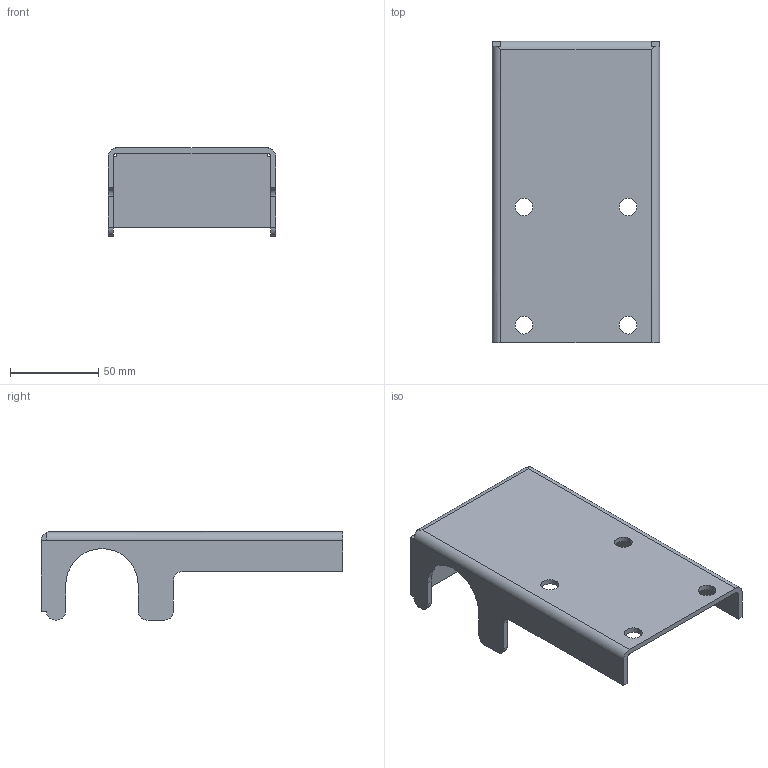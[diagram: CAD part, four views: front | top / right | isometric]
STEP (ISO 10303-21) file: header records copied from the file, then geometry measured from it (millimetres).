
FILE_DESCRIPTION( ( '' ), ' ' );
FILE_NAME( '/vol/tmp/translate-2165569522213330025/5ae2de8b1ced560fc658f746.step', '2018-04-27T08:25:48', ( '' ), ( '' ), ' ', ' ', ' ' );
FILE_SCHEMA( ( 'AUTOMOTIVE_DESIGN { 1 0 10303 214 1 1 1 1 }' ) );
Length unit declared in the file: metre
Products named in the file (1): Part 1
Bounding box: 95 x 171 x 50 mm (x, y, z)
Volume: 80200.4 mm3; surface area: 56244.7 mm2
Topology: 1 solids, 1 shells, 49 faces, 143 edges, 92 vertices
Faces by surface type: plane 28, cylinder 21
Full cylindrical faces by diameter (mm): 10 x4
Entity records: 1997 total; most frequent: DIRECTION 279, CARTESIAN_POINT 273, ORIENTED_EDGE 270, EDGE_CURVE 135, AXIS2_PLACEMENT_3D 94, LINE 91, VECTOR 91, VERTEX_POINT 88
